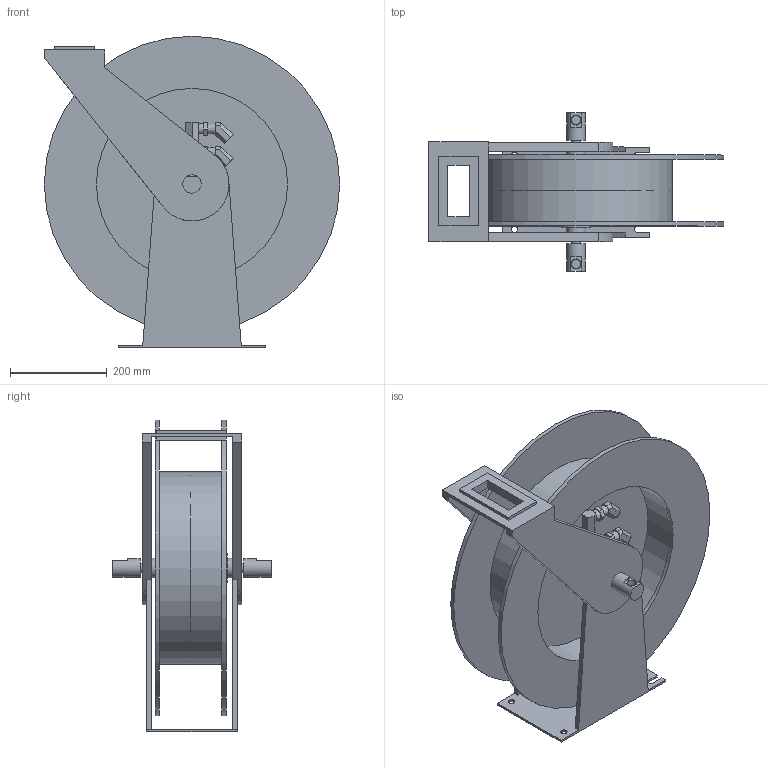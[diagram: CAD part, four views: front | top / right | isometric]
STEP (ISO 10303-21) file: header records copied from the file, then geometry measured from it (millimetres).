
FILE_DESCRIPTION( ( 'Unknown' ), '1' );
FILE_NAME( 'J:/NPD/RE 12893 3D WEB MODELS/80000 SERIES/TH80000 OMP TW.stp', 'Unknown', ( 'Unknown' ), ( 'Unknown' ), 'PSStep 10.1', 'Unknown', ' ' );
FILE_SCHEMA( ( 'AUTOMOTIVE_DESIGN { 1 0 10303 214 1 1 1 1 }' ) );
Length unit declared in the file: millimetre
Products named in the file (1): 1
Bounding box: 609.6 x 326.39 x 642.72 mm (x, y, z)
Volume: 16007425.1 mm3; surface area: 1878085.9 mm2
Topology: 1 solids, 1 shells, 165 faces, 406 edges, 269 vertices
Faces by surface type: plane 132, cylinder 25, cone 8
Full cylindrical faces by diameter (mm): 13.106 x2, 18.923 x4, 21.336 x3, 22.225 x2, 22.86 x1, 37.744 x2, 40.056 x2, 58.674 x1, 394.564 x1, 397.561 x1, 609.6 x2
Entity records: 6050 total; most frequent: CARTESIAN_POINT 958, DIRECTION 758, ORIENTED_EDGE 716, EDGE_CURVE 358, LINE 286, VECTOR 286, VERTEX_POINT 250, AXIS2_PLACEMENT_3D 236
